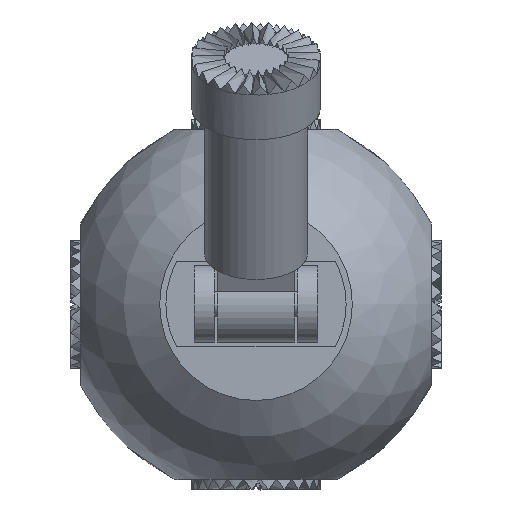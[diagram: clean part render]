
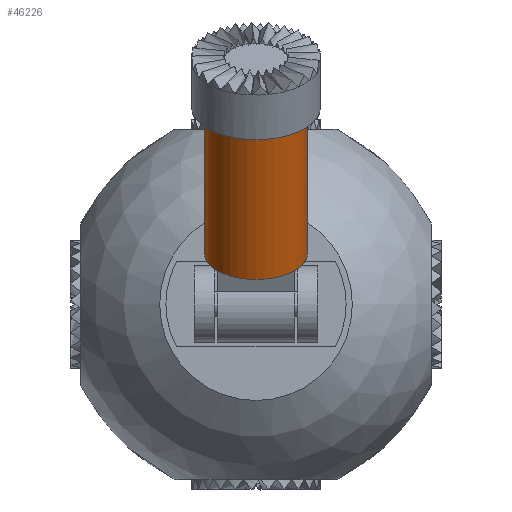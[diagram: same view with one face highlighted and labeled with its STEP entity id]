
A CAD part, top view. The second image highlights one B-rep face of the part: STEP entity #46226.
In plain terms, the highlighted cylindrical face has radius 4 mm (diameter 8 mm), a full revolution.
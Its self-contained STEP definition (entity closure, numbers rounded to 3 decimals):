
#46097 = PLANE('',#46098);
#46098 = AXIS2_PLACEMENT_3D('',#46099,#46100,#46101);
#46099 = CARTESIAN_POINT('',(0.,3.897,20.75));
#46100 = DIRECTION('',(0.,0.866,0.5));
#46101 = DIRECTION('',(1.,0.,0.));
#46132 = EDGE_CURVE('',#46133,#46133,#46135,.T.);
#46133 = VERTEX_POINT('',#46134);
#46134 = CARTESIAN_POINT('',(4.,3.897,20.75));
#46135 = SURFACE_CURVE('',#46136,(#46141,#46148),.PCURVE_S1.);
#46136 = CIRCLE('',#46137,4.);
#46137 = AXIS2_PLACEMENT_3D('',#46138,#46139,#46140);
#46138 = CARTESIAN_POINT('',(0.,3.897,20.75));
#46139 = DIRECTION('',(-0.,0.866,0.5));
#46140 = DIRECTION('',(1.,0.,0.));
#46141 = PCURVE('',#46097,#46142);
#46142 = DEFINITIONAL_REPRESENTATION('',(#46143),#46147);
#46143 = CIRCLE('',#46144,4.);
#46144 = AXIS2_PLACEMENT_2D('',#46145,#46146);
#46145 = CARTESIAN_POINT('',(0.,0.));
#46146 = DIRECTION('',(1.,0.));
#46147 = ( GEOMETRIC_REPRESENTATION_CONTEXT(2) 
PARAMETRIC_REPRESENTATION_CONTEXT() REPRESENTATION_CONTEXT('2D SPACE',''
  ) );
#46148 = PCURVE('',#46149,#46154);
#46149 = CYLINDRICAL_SURFACE('',#46150,4.);
#46150 = AXIS2_PLACEMENT_3D('',#46151,#46152,#46153);
#46151 = CARTESIAN_POINT('',(0.,3.897,20.75));
#46152 = DIRECTION('',(-0.,-0.866,-0.5));
#46153 = DIRECTION('',(1.,0.,0.));
#46154 = DEFINITIONAL_REPRESENTATION('',(#46155),#46159);
#46155 = LINE('',#46156,#46157);
#46156 = CARTESIAN_POINT('',(-0.,0.));
#46157 = VECTOR('',#46158,1.);
#46158 = DIRECTION('',(-1.,0.));
#46159 = ( GEOMETRIC_REPRESENTATION_CONTEXT(2) 
PARAMETRIC_REPRESENTATION_CONTEXT() REPRESENTATION_CONTEXT('2D SPACE',''
  ) );
#46226 = ADVANCED_FACE('',(#46227),#46149,.T.);
#46227 = FACE_BOUND('',#46228,.F.);
#46228 = EDGE_LOOP('',(#46229,#46252,#46279,#46280));
#46229 = ORIENTED_EDGE('',*,*,#46230,.T.);
#46230 = EDGE_CURVE('',#46133,#46231,#46233,.T.);
#46231 = VERTEX_POINT('',#46232);
#46232 = CARTESIAN_POINT('',(4.,15.069,27.2));
#46233 = SEAM_CURVE('',#46234,(#46238,#46245),.PCURVE_S1.);
#46234 = LINE('',#46235,#46236);
#46235 = CARTESIAN_POINT('',(4.,3.897,20.75));
#46236 = VECTOR('',#46237,1.);
#46237 = DIRECTION('',(0.,0.866,0.5));
#46238 = PCURVE('',#46149,#46239);
#46239 = DEFINITIONAL_REPRESENTATION('',(#46240),#46244);
#46240 = LINE('',#46241,#46242);
#46241 = CARTESIAN_POINT('',(-0.,0.));
#46242 = VECTOR('',#46243,1.);
#46243 = DIRECTION('',(-0.,-1.));
#46244 = ( GEOMETRIC_REPRESENTATION_CONTEXT(2) 
PARAMETRIC_REPRESENTATION_CONTEXT() REPRESENTATION_CONTEXT('2D SPACE',''
  ) );
#46245 = PCURVE('',#46149,#46246);
#46246 = DEFINITIONAL_REPRESENTATION('',(#46247),#46251);
#46247 = LINE('',#46248,#46249);
#46248 = CARTESIAN_POINT('',(-6.283,0.));
#46249 = VECTOR('',#46250,1.);
#46250 = DIRECTION('',(-0.,-1.));
#46251 = ( GEOMETRIC_REPRESENTATION_CONTEXT(2) 
PARAMETRIC_REPRESENTATION_CONTEXT() REPRESENTATION_CONTEXT('2D SPACE',''
  ) );
#46252 = ORIENTED_EDGE('',*,*,#46253,.T.);
#46253 = EDGE_CURVE('',#46231,#46231,#46254,.T.);
#46254 = SURFACE_CURVE('',#46255,(#46260,#46267),.PCURVE_S1.);
#46255 = CIRCLE('',#46256,4.);
#46256 = AXIS2_PLACEMENT_3D('',#46257,#46258,#46259);
#46257 = CARTESIAN_POINT('',(0.,15.069,27.2));
#46258 = DIRECTION('',(-0.,0.866,0.5));
#46259 = DIRECTION('',(1.,0.,0.));
#46260 = PCURVE('',#46149,#46261);
#46261 = DEFINITIONAL_REPRESENTATION('',(#46262),#46266);
#46262 = LINE('',#46263,#46264);
#46263 = CARTESIAN_POINT('',(-0.,-12.9));
#46264 = VECTOR('',#46265,1.);
#46265 = DIRECTION('',(-1.,0.));
#46266 = ( GEOMETRIC_REPRESENTATION_CONTEXT(2) 
PARAMETRIC_REPRESENTATION_CONTEXT() REPRESENTATION_CONTEXT('2D SPACE',''
  ) );
#46267 = PCURVE('',#46268,#46273);
#46268 = PLANE('',#46269);
#46269 = AXIS2_PLACEMENT_3D('',#46270,#46271,#46272);
#46270 = CARTESIAN_POINT('',(0.,15.069,27.2));
#46271 = DIRECTION('',(0.,0.866,0.5));
#46272 = DIRECTION('',(1.,0.,0.));
#46273 = DEFINITIONAL_REPRESENTATION('',(#46274),#46278);
#46274 = CIRCLE('',#46275,4.);
#46275 = AXIS2_PLACEMENT_2D('',#46276,#46277);
#46276 = CARTESIAN_POINT('',(0.,0.));
#46277 = DIRECTION('',(1.,0.));
#46278 = ( GEOMETRIC_REPRESENTATION_CONTEXT(2) 
PARAMETRIC_REPRESENTATION_CONTEXT() REPRESENTATION_CONTEXT('2D SPACE',''
  ) );
#46279 = ORIENTED_EDGE('',*,*,#46230,.F.);
#46280 = ORIENTED_EDGE('',*,*,#46132,.F.);
